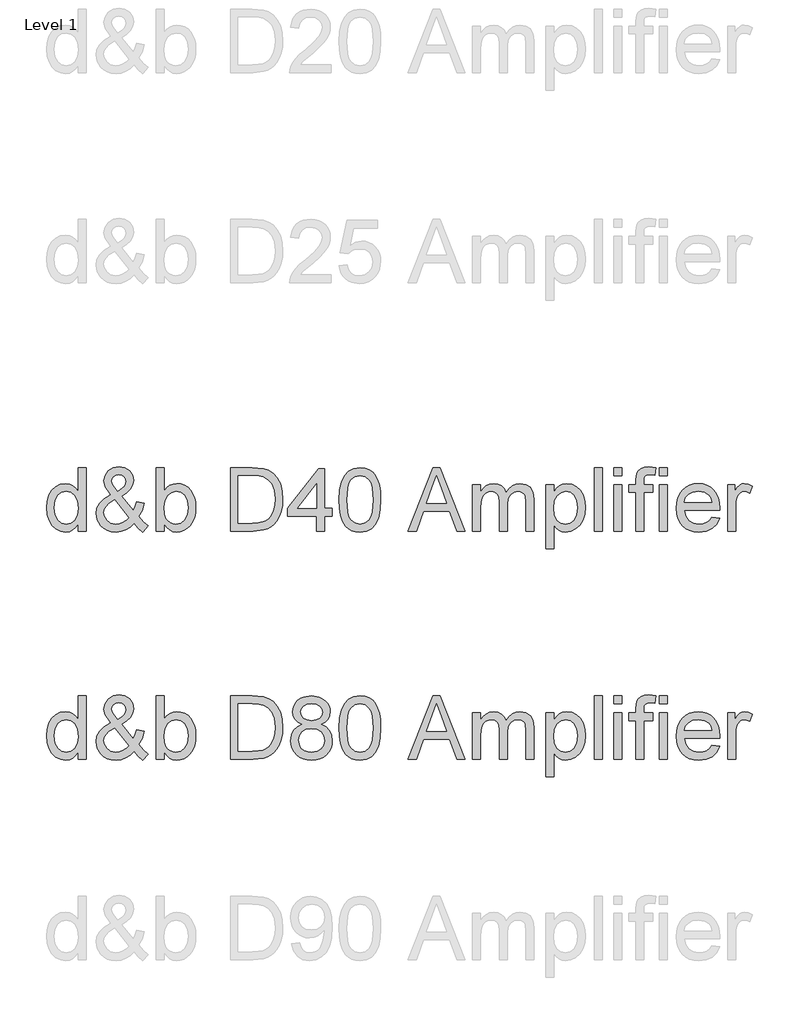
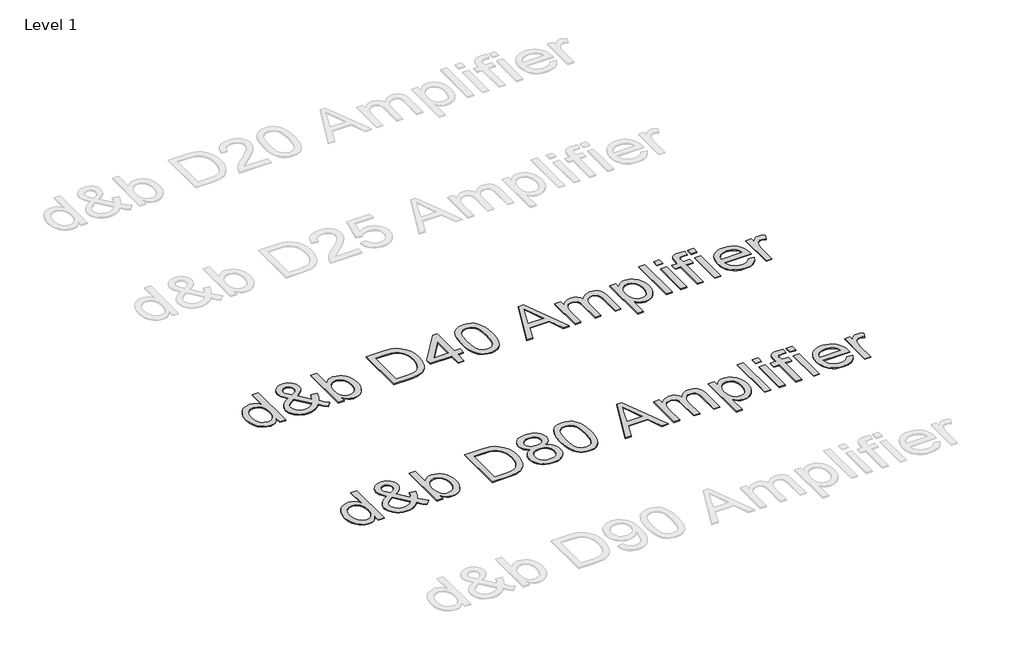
# One storey, part 6 of 14: 2 proxies.
"""IFC4 building model written with IfcOpenShell, lengths in millimetres."""

import ifcopenshell
import ifcopenshell.guid

model = None  # the IFC model being written
_history = None  # IfcOwnerHistory: only IFC2X3 demands one
_inside = {}  # id of a spatial element -> (the spatial element, [elements in it])
_under = {}  # id of a project, library or spatial element -> (it, [spatial elements below it])
_declared = {}  # id of a project -> (the project, [libraries it declares])
_typed = {}  # id of a type object -> (the type object, [elements of that type])
_made_of = {}  # id of a material, layer set ... -> (it, [elements and type objects made of it])


def new_model(schema):
    """Start an empty IFC model of exactly this schema.

    Asked for "IFC4X3", IfcOpenShell would pick the latest addendum, in which some entities
    have other attributes; the version numbers below select the first issue.
    IFC2X3 requires an IfcOwnerHistory on every rooted entity: one is made here for all.
    """
    global model, _history
    if schema == "IFC4X3":
        model = ifcopenshell.file(schema_version=(4, 3, 0, 0))
    else:
        model = ifcopenshell.file(schema=schema)
    _inside.clear()
    _under.clear()
    _declared.clear()
    _typed.clear()
    _made_of.clear()
    _history = None
    if model.schema == "IFC2X3":
        org = make("IfcOrganization", Name="unknown")
        user = make(
            "IfcPersonAndOrganization",
            ThePerson=make("IfcPerson", FamilyName="unknown"),
            TheOrganization=org,
        )
        app = make(
            "IfcApplication",
            ApplicationDeveloper=org,
            Version="unknown",
            ApplicationFullName="unknown",
            ApplicationIdentifier="unknown",
        )
        _history = make(
            "IfcOwnerHistory",
            OwningUser=user,
            OwningApplication=app,
            ChangeAction="ADDED",
            CreationDate=0,
        )
    return model


def make(cls, **values):
    """One entity of the class cls with the attributes given. An attribute that is None is left unset."""
    return model.create_entity(
        cls, **{name: value for name, value in values.items() if value is not None}
    )


def rooted(cls, **values):
    """An entity with a GlobalId (a new one), such as an element, a storey or a relation."""
    return make(cls, GlobalId=ifcopenshell.guid.new(), OwnerHistory=_history, **values)


def si_unit(unit_type, name, prefix=None):
    """IfcSIUnit, for example si_unit("LENGTHUNIT", "METRE", prefix="MILLI")."""
    return make("IfcSIUnit", UnitType=unit_type, Prefix=prefix, Name=name)


def assignment(units):
    """IfcUnitAssignment: the units of a project."""
    return None if units is None else make("IfcUnitAssignment", Units=units)


def point(xyz):
    """IfcCartesianPoint."""
    return None if xyz is None else make("IfcCartesianPoint", Coordinates=xyz)


def direction(xyz):
    """IfcDirection."""
    return None if xyz is None else make("IfcDirection", DirectionRatios=xyz)


def frame(location, z_axis=None, x_axis=None):
    """IfcAxis2Placement3D, a coordinate frame: its origin and axes. An axis left out is left unset."""
    return make(
        "IfcAxis2Placement3D",
        Location=point(location),
        Axis=direction(z_axis),
        RefDirection=direction(x_axis),
    )


def origin():
    """The frame at (0, 0, 0) with its axes left unset."""
    return frame((0.0, 0.0, 0.0))


def origin_with_axes():
    """The frame at (0, 0, 0) with the z axis (0, 0, 1) and the x axis (1, 0, 0) written out."""
    return frame((0.0, 0.0, 0.0), z_axis=(0.0, 0.0, 1.0), x_axis=(1.0, 0.0, 0.0))


def place(relative_to, where):
    """IfcLocalPlacement: puts the frame where relative to a parent placement (None: the world)."""
    return make(
        "IfcLocalPlacement", PlacementRelTo=relative_to, RelativePlacement=where
    )


def context(
    kind, dimensions, precision=None, world=None, true_north=None, identifier=None
):
    """IfcGeometricRepresentationContext, for example the 3D "Model" context."""
    return make(
        "IfcGeometricRepresentationContext",
        ContextIdentifier=identifier,
        ContextType=kind,
        CoordinateSpaceDimension=dimensions,
        Precision=precision,
        WorldCoordinateSystem=world,
        TrueNorth=true_north,
    )


def project(units=None, contexts=None):
    """IfcProject with its units and contexts."""
    return rooted(
        "IfcProject",
        Name="project",
        RepresentationContexts=contexts,
        UnitsInContext=assignment(units),
    )


def spatial(cls, under=None, at=None, **own):
    """A site, building, storey or space (cls), placed at a placement, below another one or the project."""
    s = rooted(cls, ObjectPlacement=at, **own)
    if under is not None:
        _under.setdefault(under.id(), (under, []))[1].append(s)
    return s


def polyline(points):
    """IfcPolyline through the points."""
    return make("IfcPolyline", Points=[point(p) for p in points])


def outline(outer, holes=None, kind="AREA"):
    """IfcArbitraryClosedProfileDef: a profile drawn as a closed curve; with holes, ...WithVoids."""
    if holes is None:
        return make("IfcArbitraryClosedProfileDef", ProfileType=kind, OuterCurve=outer)
    return make(
        "IfcArbitraryProfileDefWithVoids",
        ProfileType=kind,
        OuterCurve=outer,
        InnerCurves=holes,
    )


def extrude(swept, where, along, depth):
    """IfcExtrudedAreaSolid: the profile swept, set in the frame where, extruded along a direction by depth."""
    return make(
        "IfcExtrudedAreaSolid",
        SweptArea=swept,
        Position=where,
        ExtrudedDirection=direction(along),
        Depth=depth,
    )


def shape(context_of_items, identifier, shape_type, items):
    """IfcShapeRepresentation: the items that make up one representation, for example the "Body"."""
    return make(
        "IfcShapeRepresentation",
        ContextOfItems=context_of_items,
        RepresentationIdentifier=identifier,
        RepresentationType=shape_type,
        Items=items,
    )


def made_of(thing, what):
    """Note that an element or type object is made of a material, layer set ...; save() writes the relation."""
    if what is not None:
        _made_of.setdefault(what.id(), (what, []))[1].append(thing)
    return thing


def element(
    cls,
    number,
    at=None,
    inside=None,
    cuts=None,
    type_object=None,
    material=None,
    context=None,
    identifier="Body",
    shape_type=None,
    held_by="IfcProductDefinitionShape",
    body=None,
    shapes=None,
    **own,
):
    """One element of the class cls, such as IfcWall. Its Tag is "e" and its number.

    at: its placement. inside: the storey or other place that contains it. cuts: it is an
    opening in that element (IfcRelVoidsElement). A single representation is given by context,
    identifier, shape_type and body (its items); several are given by shapes. held_by: the class
    of the entity that holds the representations. save() writes the other relations.
    """
    e = rooted(cls, Tag="e%d" % number, ObjectPlacement=at, **own)
    if body is not None:
        shapes = [shape(context, identifier, shape_type, body)]
    if shapes is not None:
        e.Representation = make(held_by, Representations=shapes)
    if inside is not None:
        _inside.setdefault(inside.id(), (inside, []))[1].append(e)
    if cuts is not None:
        rooted(
            "IfcRelVoidsElement", RelatingBuildingElement=cuts, RelatedOpeningElement=e
        )
    if type_object is not None:
        _typed.setdefault(type_object.id(), (type_object, []))[1].append(e)
    return made_of(e, material)


def aggregate(whole, parts):
    """IfcRelAggregates: a whole, such as a stair, and the parts it consists of."""
    return rooted("IfcRelAggregates", RelatingObject=whole, RelatedObjects=parts)


def save(model, path):
    """Write the relations noted so far, then the file.

    IfcRelAggregates (storeys below a building ...), IfcRelContainedInSpatialStructure (elements
    in a storey), IfcRelDefinesByType, IfcRelAssociatesMaterial and IfcRelDeclares: one each for
    every whole, place, type object, material and project.
    """
    for whole, parts in _under.values():
        aggregate(whole, parts)
    for where, things in _inside.values():
        rooted(
            "IfcRelContainedInSpatialStructure",
            RelatedElements=things,
            RelatingStructure=where,
        )
    for kind, things in _typed.values():
        rooted("IfcRelDefinesByType", RelatedObjects=things, RelatingType=kind)
    for what, things in _made_of.values():
        rooted("IfcRelAssociatesMaterial", RelatedObjects=things, RelatingMaterial=what)
    for by, libraries in _declared.values():
        rooted("IfcRelDeclares", RelatingContext=by, RelatedDefinitions=libraries)
    model.write(path)


model = new_model("IFC4")

# Units and contexts
model_context = context("Model", 3, world=origin())
ifc_project = project(units=[si_unit("LENGTHUNIT", "METRE", prefix="MILLI")], contexts=[model_context])

# Site, building, storey
site = spatial("IfcSite", under=ifc_project)
building = spatial("IfcBuilding", under=site)
storey = spatial("IfcBuildingStorey", under=building, Name="Level 1", Elevation=0.0)

# Proxies
placement = place(None, origin())
element("IfcBuildingElementProxy", 1, Name="300mm Arial", ObjectType="300mm Arial", at=placement, inside=storey, context=model_context, shape_type="SweptSolid", body=[
    extrude(outline(polyline([(-19191.0990778, 7187.2877829), (-19191.0990778, 7222.8251837), (-19202.3700624, 7205.2174317), (-19216.0230829, 7192.640466), (-19232.0581394, 7185.0942866), (-19250.4752318, 7182.5788934), (-19274.8290199, 7186.2209252), (-19297.1226688, 7197.1470204), (-19315.9950151, 7214.593824), (-19330.0848956, 7237.7979809), (-19338.8588811, 7265.8213919), (-19341.783543, 7297.7259579), (-19339.0888074, 7329.2350508), (-19331.0046005, 7357.6907231), (-19317.5401195, 7381.4742941), (-19298.7045614, 7398.967083), (-19275.9234688, 7409.7276313), (-19250.6223846, 7413.3144808), (-19232.1914966, 7410.7485039), (-19215.8943242, 7403.0505731), (-19202.0803553, 7391.2507581), (-19191.0990778, 7376.3791285), (-19191.0990778, 7488.6567134), (-19153.4279615, 7488.6567134), (-19153.4279615, 7187.2877829), (-19191.0990778, 7187.2877829)]), holes=[polyline([(-19304.1124267, 7297.8731107), (-19299.8633896, 7263.7980409), (-19287.1162785, 7239.5638145), (-19268.5934201, 7225.0784609), (-19247.017141, 7220.2500097), (-19225.4500591, 7224.8577317), (-19207.3962502, 7238.6808977), (-19195.1733709, 7261.977025), (-19191.0990778, 7295.0036311), (-19195.2469473, 7331.111249), (-19207.6905558, 7356.1456187), (-19226.2042172, 7370.768928), (-19248.5622454, 7375.6433645), (-19270.3592536, 7370.9620661), (-19288.2199245, 7356.9181709), (-19300.1393011, 7332.7943091), (-19304.1124267, 7297.8731107)])]), origin_with_axes(), (0.0, 0.0, 1.0), 5.0),
    extrude(outline(polyline([(-18924.0903257, 7224.5174409), (-18943.2385835, 7206.1693264), (-18964.0423104, 7193.0635303), (-18986.5382944, 7185.2000526), (-19010.7633237, 7182.5788934), (-19032.744273, 7184.5194709), (-19052.3339892, 7190.3412035), (-19069.5324725, 7200.0440911), (-19084.3397228, 7213.6281338), (-19100.8392303, 7240.4283372), (-19106.3390661, 7270.2083847), (-19101.9152851, 7296.6039178), (-19088.6439421, 7320.3139124), (-19066.5802195, 7341.3199743), (-19035.7792994, 7359.6037095), (-19062.0828621, 7397.7162842), (-19068.6679498, 7425.9696214), (-19063.4808136, 7451.4086614), (-19047.9194053, 7473.279246), (-19024.5037163, 7488.3440137), (-18995.7537383, 7493.3656029), (-18968.401712, 7488.5647429), (-18946.5311274, 7474.1621628), (-18932.1837296, 7453.0273422), (-18927.4012636, 7428.0297606), (-18930.9421278, 7407.0420928), (-18941.5647204, 7387.6363175), (-18959.2690415, 7369.8124349), (-18984.0550909, 7353.5704448), (-18929.5349792, 7285.6594285), (-18920.2459588, 7305.0652037), (-18913.274595, 7327.3772467), (-18875.6034787, 7319.2102664), (-18887.1917616, 7284.3166592), (-18902.2381352, 7257.185362), (-18880.827403, 7232.2061746), (-18856.7679206, 7211.5679946), (-18885.0212578, 7182.5788934), (-18904.243092, 7200.1636528), (-18924.0903257, 7224.5174409)]), holes=[polyline([(-18949.3270305, 7251.6671321), (-19016.5758593, 7335.6178034), (-19042.2632196, 7319.2286605), (-19057.9625837, 7304.0535282), (-19065.9916083, 7289.5589776), (-19068.6679498, 7275.2115798), (-19065.0075239, 7257.4428794), (-19054.0262464, 7239.0119915), (-19036.3311224, 7224.9405052), (-19012.5291573, 7220.2500097), (-18995.4870239, 7222.4389076), (-18977.9114616, 7229.0056012), (-18961.8442154, 7239.0487797), (-18949.3270305, 7251.6671321)]), polyline([(-19003.1113782, 7377.3356217), (-18983.4112974, 7389.8344124), (-18972.1357142, 7400.6961284), (-18966.8382135, 7411.2635387), (-18965.0723799, 7422.8794127), (-18967.3992336, 7436.040391), (-18974.3797944, 7446.534225), (-18984.8552342, 7453.4044212), (-18997.6667247, 7455.6944866), (-19010.7541267, 7453.4228153), (-19021.4686898, 7446.6078013), (-19028.6147976, 7436.5186376), (-19030.9968335, 7424.424517), (-19027.7594719, 7410.6289422), (-19017.9738108, 7395.288263), (-19003.1113782, 7377.3356217)])]), origin_with_axes(), (0.0, 0.0, 1.0), 5.0),
    extrude(outline(polyline([(-18781.4256879, 7187.2877829), (-18819.0968043, 7187.2877829), (-18819.0968043, 7488.6567134), (-18781.4256879, 7488.6567134), (-18781.4256879, 7376.8941633), (-18769.0372618, 7392.8280522), (-18755.0485489, 7404.2094014), (-18739.4595493, 7411.0382109), (-18722.2702631, 7413.3144808), (-18702.8644879, 7411.2635387), (-18684.5255704, 7405.1107123), (-18668.3019744, 7395.2422778), (-18655.2421636, 7382.0445112), (-18645.0058471, 7365.6461713), (-18637.252734, 7346.1760167), (-18632.3691005, 7324.4433878), (-18630.7412227, 7301.2576251), (-18632.4265821, 7274.503407), (-18637.4826603, 7250.9681563), (-18645.9094572, 7230.6518731), (-18657.706973, 7213.5545574), (-18671.8681305, 7200.0027044), (-18687.3858529, 7190.3228094), (-18704.2601402, 7184.5148724), (-18722.4909923, 7182.5788934), (-18740.2458971, 7185.0758925), (-18755.986648, 7192.5668896), (-18769.7132449, 7205.0518848), (-18781.4256879, 7222.5308781), (-18781.4256879, 7187.2877829)]), holes=[polyline([(-18781.4256879, 7299.4917915), (-18778.850514, 7268.0746691), (-18771.1249921, 7246.8110898), (-18761.9969201, 7235.1906172), (-18751.388123, 7226.8902797), (-18739.298601, 7221.9100772), (-18725.7283539, 7220.2500097), (-18703.986528, 7225.1428403), (-18685.4084872, 7239.8213319), (-18672.6613761, 7264.193514), (-18668.412339, 7298.1674163), (-18672.4866321, 7332.6379592), (-18684.7095114, 7356.7342299), (-18702.708138, 7370.9160808), (-18724.1096731, 7375.6433645), (-18745.851499, 7370.7505339), (-18764.4295398, 7356.0720423), (-18777.1766509, 7332.1413186), (-18781.4256879, 7299.4917915)])]), origin_with_axes(), (0.0, 0.0, 1.0), 5.0),
    extrude(outline(polyline([(-18465.9300889, 7187.2877829), (-18465.9300889, 7488.6567134), (-18361.966637, 7488.6567134), (-18308.1822893, 7484.3157059), (-18284.1595951, 7475.9463905), (-18263.8892971, 7462.7578209), (-18243.0487821, 7439.8019844), (-18228.2047436, 7411.2543416), (-18219.3203934, 7377.6667155), (-18216.3589434, 7339.590929), (-18218.3639002, 7307.2449045), (-18224.3787708, 7278.7800352), (-18233.5390325, 7254.5458087), (-18244.9801626, 7234.8917131), (-18258.150338, 7219.37629), (-18272.4977358, 7207.5580809), (-18288.9696522, 7198.7932923), (-18308.5133831, 7192.4381309), (-18356.9634419, 7187.2877829), (-18465.9300889, 7187.2877829)]), holes=[polyline([(-18428.2589726, 7224.9588993), (-18361.598755, 7224.9588993), (-18334.0259995, 7226.3200626), (-18313.1119081, 7230.4035528), (-18297.3297705, 7236.9702464), (-18285.1528765, 7245.7810202), (-18272.0654745, 7262.0873896), (-18262.2338282, 7283.1946191), (-18256.0810018, 7309.1946791), (-18254.0300597, 7340.1795401), (-18258.0491705, 7381.2351708), (-18270.1065028, 7411.5486472), (-18287.9211885, 7432.3707681), (-18309.2123589, 7444.9523324), (-18330.8806085, 7449.4772809), (-18362.6288246, 7450.9855971), (-18428.2589726, 7450.9855971), (-18428.2589726, 7224.9588993)])]), origin_with_axes(), (0.0, 0.0, 1.0), 5.0),
    extrude(outline(polyline([(-18123.7998334, 7353.2761392), (-18143.9689638, 7363.208953), (-18158.1232235, 7376.6734341), (-18166.4833419, 7393.3936707), (-18169.270048, 7413.0937516), (-18167.7525347, 7428.4574234), (-18163.1999951, 7442.5427053), (-18155.6124289, 7455.3495973), (-18144.9898363, 7466.8780993), (-18131.8426535, 7476.406243), (-18116.6813168, 7483.2120599), (-18080.3161815, 7488.6567134), (-18043.7303171, 7483.0833012), (-18028.4034335, 7476.1165359), (-18015.0539156, 7466.3630645), (-18004.2381849, 7454.6092347), (-17996.512663, 7441.6413944), (-17991.8773499, 7427.4595435), (-17990.3322455, 7412.063682), (-17993.0821634, 7392.9981976), (-18001.3319172, 7376.5630695), (-18015.1734772, 7363.1813619), (-18034.6988141, 7353.2761392), (-18011.5130514, 7341.3291714), (-17994.6364649, 7323.735215), (-17984.344966, 7301.3403985), (-17980.9144664, 7274.9908506), (-17982.6159207, 7256.2012777), (-17987.7202834, 7238.9752033), (-17996.2275545, 7223.3126273), (-18008.1377341, 7209.2135499), (-18022.8254227, 7197.5608877), (-18039.6652211, 7189.2375575), (-18058.6571291, 7184.2435594), (-18079.8011467, 7182.5788934), (-18100.9451644, 7184.2504572), (-18119.9370724, 7189.2651487), (-18136.7768707, 7197.6229678), (-18151.4645594, 7209.3239145), (-18163.374739, 7223.5218602), (-18171.8820101, 7239.3706764), (-18176.9863728, 7256.8703631), (-18178.687827, 7276.0209202), (-18175.1193717, 7303.3913406), (-18164.4140056, 7325.9057187), (-18147.1235519, 7342.7915023), (-18123.7998334, 7353.2761392)]), holes=[polyline([(-18141.0167107, 7277.3452954), (-18134.7259286, 7248.9815935), (-18126.0163224, 7236.8138966), (-18112.4690679, 7227.7548024), (-18096.2454719, 7222.1262079), (-18079.5068411, 7220.2500097), (-18053.8654661, 7224.1955441), (-18034.6252377, 7236.0321473), (-18022.5954965, 7253.9571975), (-18018.5855827, 7276.168073), (-18022.7242552, 7298.7560275), (-18035.1402725, 7317.0765508), (-18054.8219593, 7329.2166567), (-18080.7576399, 7333.2633586), (-18106.0403301, 7329.271839), (-18125.0874204, 7317.29728), (-18137.0343881, 7299.3262446), (-18141.0167107, 7277.3452954)]), polyline([(-18131.5989317, 7411.9901056), (-18128.2604026, 7395.5457804), (-18118.2448152, 7382.4123932), (-18101.8464753, 7373.8039545), (-18079.3596883, 7370.9344749), (-18057.3971332, 7373.7855604), (-18041.2471136, 7382.3388168), (-18031.3142998, 7395.0307456), (-18028.0033618, 7410.2978484), (-18031.4246644, 7426.1443654), (-18041.688572, 7439.2501614), (-18058.0593208, 7448.0517382), (-18079.8011467, 7450.9855971), (-18101.6809284, 7448.1161175), (-18118.024086, 7439.5076788), (-18128.2052203, 7426.8893264), (-18131.5989317, 7411.9901056)])]), origin_with_axes(), (0.0, 0.0, 1.0), 5.0),
    extrude(outline(polyline([(-17947.9522397, 7335.544227), (-17945.1839277, 7383.7827536), (-17936.8789916, 7422.2540133), (-17923.120205, 7451.5466171), (-17903.9903412, 7472.2491764), (-17879.3514446, 7484.5548292), (-17849.0655594, 7488.6567134), (-17825.8522055, 7486.2286922), (-17805.0668727, 7478.9446287), (-17787.6844485, 7467.0896314), (-17774.6798199, 7450.9488089), (-17764.8573707, 7430.6601169), (-17757.0214842, 7406.3615111), (-17751.8895303, 7375.5054087), (-17750.1788791, 7335.544227), (-17752.9195999, 7287.5816119), (-17761.1417625, 7249.2023227), (-17774.8177757, 7219.8821277), (-17793.9200483, 7199.096795), (-17818.6141272, 7186.7083688), (-17849.0655594, 7182.5788934), (-17869.8141039, 7184.3723181), (-17888.2082037, 7189.7525923), (-17904.2478586, 7198.7197159), (-17917.9330689, 7211.273689), (-17931.0664561, 7233.9674096), (-17940.447447, 7262.2437395), (-17946.0760415, 7296.1026786), (-17947.9522397, 7335.544227)]), holes=[polyline([(-17910.2811234, 7335.6178034), (-17905.8665394, 7276.361211), (-17900.3483095, 7256.0932124), (-17892.6227876, 7242.065412), (-17872.9043127, 7225.7038603), (-17849.0655594, 7220.2500097), (-17825.2268061, 7225.7222544), (-17805.5083311, 7242.1389884), (-17797.7828092, 7256.1897814), (-17792.2645793, 7276.4531815), (-17787.8499954, 7335.6178034), (-17792.1174265, 7393.5408235), (-17797.4517154, 7413.7421436), (-17804.9197199, 7428.103337), (-17824.6014067, 7445.2650321), (-17849.5070178, 7450.9855971), (-17873.0882537, 7445.9456138), (-17892.0341764, 7430.8256638), (-17900.0172157, 7415.190679), (-17905.7193866, 7394.1110406), (-17910.2811234, 7335.6178034)])]), origin_with_axes(), (0.0, 0.0, 1.0), 5.0),
    extrude(outline(polyline([(-17620.3901112, 7187.2877829), (-17500.0926987, 7488.6567134), (-17468.0133888, 7488.6567134), (-17347.7895527, 7187.2877829), (-17387.5943846, 7187.2877829), (-17422.0281394, 7281.4655737), (-17546.2251009, 7281.4655737), (-17580.6588557, 7187.2877829), (-17620.3901112, 7187.2877829)]), holes=[polyline([(-17532.3927379, 7319.13669), (-17435.786926, 7319.13669), (-17463.0101936, 7393.2281238), (-17484.1266202, 7450.9855971), (-17502.8886019, 7399.702847), (-17532.3927379, 7319.13669)])]), origin_with_axes(), (0.0, 0.0, 1.0), 5.0),
    extrude(outline(polyline([(-17312.252152, 7187.2877829), (-17312.252152, 7408.6055912), (-17274.5810357, 7408.6055912), (-17274.5810357, 7372.1852737), (-17263.2502702, 7388.9147075), (-17248.6821432, 7402.0205035), (-17231.3732954, 7410.4909865), (-17211.8203673, 7413.3144808), (-17190.8694877, 7410.4358042), (-17174.0756746, 7401.7997743), (-17161.5308986, 7387.9766084), (-17153.3271301, 7369.5365234), (-17139.5959346, 7388.6893797), (-17123.9333587, 7402.3699914), (-17106.3394023, 7410.5783584), (-17086.8140654, 7413.3144808), (-17058.4963488, 7408.7619411), (-17037.5546662, 7395.104322), (-17024.614417, 7371.9737416), (-17020.3010006, 7339.0023178), (-17020.3010006, 7187.2877829), (-17057.9721169, 7187.2877829), (-17057.9721169, 7322.81551), (-17061.4669959, 7354.2694206), (-17066.3782205, 7362.9422386), (-17074.1221365, 7369.7572526), (-17084.0825415, 7374.1718365), (-17095.6432332, 7375.6433645), (-17116.0514869, 7371.872574), (-17132.6889502, 7360.5602027), (-17143.7530012, 7340.9336982), (-17147.4410182, 7312.2205085), (-17147.4410182, 7187.2877829), (-17185.1121345, 7187.2877829), (-17185.1121345, 7327.0093647), (-17187.2918353, 7348.3097322), (-17193.8309378, 7363.5032586), (-17205.3364472, 7372.608338), (-17222.4153688, 7375.6433645), (-17236.9283135, 7373.6200135), (-17250.300824, 7367.5499606), (-17261.3372839, 7357.5803585), (-17268.8420766, 7343.8583601), (-17273.1462959, 7324.8204668), (-17274.5810357, 7298.9031803), (-17274.5810357, 7187.2877829), (-17312.252152, 7187.2877829)])), origin_with_axes(), (0.0, 0.0, 1.0), 5.0),
    extrude(outline(polyline([(-16963.7943262, 7102.5277713), (-16963.7943262, 7408.6055912), (-16926.1232099, 7408.6055912), (-16926.1232099, 7371.6702389), (-16913.8359512, 7389.8895947), (-16900.0771646, 7402.9034203), (-16884.0375096, 7410.7117157), (-16864.9076459, 7413.3144808), (-16839.4318177, 7409.672449), (-16817.1565629, 7398.7463538), (-16799.0199805, 7381.1983826), (-16785.9601697, 7357.6907231), (-16778.0691009, 7329.9340266), (-16775.4387446, 7299.6389443), (-16778.4093918, 7267.4216785), (-16787.3213331, 7238.6073213), (-16801.8894601, 7214.6582034), (-16821.8286642, 7197.0366558), (-16845.0512152, 7186.193334), (-16869.4693826, 7182.5788934), (-16886.7874275, 7184.9977175), (-16902.2476684, 7192.2541899), (-16915.4822232, 7203.2078763), (-16926.1232099, 7216.7183426), (-16926.1232099, 7102.5277713), (-16963.7943262, 7102.5277713)]), holes=[polyline([(-16926.1232099, 7296.1808535), (-16922.0489168, 7262.4092864), (-16909.8260375, 7238.7912623), (-16891.7906227, 7224.8853229), (-16870.278723, 7220.2500097), (-16848.4173354, 7225.0508698), (-16829.9220681, 7239.4534499), (-16817.3129127, 7263.9359966), (-16813.109861, 7298.9767567), (-16817.2117452, 7332.5643828), (-16829.5173979, 7356.5135007), (-16847.5252216, 7370.8608985), (-16868.7336186, 7375.6433645), (-16890.0247891, 7370.5573959), (-16908.7223915, 7355.2994901), (-16921.7730053, 7330.3478938), (-16926.1232099, 7296.1808535)])]), origin_with_axes(), (0.0, 0.0, 1.0), 5.0),
    extrude(outline(polyline([(-16733.0587388, 7187.2877829), (-16733.0587388, 7488.6567134), (-16695.3876225, 7488.6567134), (-16695.3876225, 7187.2877829), (-16733.0587388, 7187.2877829)])), origin_with_axes(), (0.0, 0.0, 1.0), 5.0),
    extrude(outline(polyline([(-16638.880948, 7187.2877829), (-16638.880948, 7408.6055912), (-16601.2098317, 7408.6055912), (-16601.2098317, 7187.2877829), (-16638.880948, 7187.2877829)])), origin_with_axes(), (0.0, 0.0, 1.0), 5.0),
    extrude(outline(polyline([(-16638.880948, 7450.9855971), (-16638.880948, 7488.6567134), (-16601.2098317, 7488.6567134), (-16601.2098317, 7450.9855971), (-16638.880948, 7450.9855971)])), origin_with_axes(), (0.0, 0.0, 1.0), 5.0),
    extrude(outline(polyline([(-16535.2853782, 7187.2877829), (-16535.2853782, 7370.9344749), (-16568.247605, 7370.9344749), (-16568.247605, 7408.6055912), (-16535.2853782, 7408.6055912), (-16535.2853782, 7430.8992402), (-16531.3122526, 7462.3163625), (-16523.7338835, 7474.8427445), (-16512.0352361, 7484.7571642), (-16495.6644873, 7491.2134933), (-16474.0698142, 7493.3656029), (-16439.7096358, 7489.2453246), (-16445.2278658, 7453.9286531), (-16466.9329035, 7455.6944866), (-16481.2527102, 7454.1309882), (-16490.6612922, 7449.4404927), (-16495.8760195, 7440.4825661), (-16497.6142619, 7426.1167742), (-16497.6142619, 7408.6055912), (-16455.234256, 7408.6055912), (-16455.234256, 7370.9344749), (-16497.6142619, 7370.9344749), (-16497.6142619, 7187.2877829), (-16535.2853782, 7187.2877829)])), origin_with_axes(), (0.0, 0.0, 1.0), 5.0),
    extrude(outline(polyline([(-16422.2720293, 7187.2877829), (-16422.2720293, 7408.6055912), (-16384.600913, 7408.6055912), (-16384.600913, 7187.2877829), (-16422.2720293, 7187.2877829)])), origin_with_axes(), (0.0, 0.0, 1.0), 5.0),
    extrude(outline(polyline([(-16422.2720293, 7450.9855971), (-16422.2720293, 7488.6567134), (-16384.600913, 7488.6567134), (-16384.600913, 7450.9855971), (-16422.2720293, 7450.9855971)])), origin_with_axes(), (0.0, 0.0, 1.0), 5.0),
    extrude(outline(polyline([(-16173.1423421, 7253.2122365), (-16136.2069898, 7248.5033469), (-16149.515121, 7220.673074), (-16170.7511092, 7199.8693472), (-16199.4367077, 7186.9015069), (-16235.0936701, 7182.5788934), (-16258.4679724, 7184.4435953), (-16279.2946919, 7190.0377009), (-16297.5738285, 7199.3612102), (-16313.3053823, 7212.4141232), (-16325.9559244, 7228.8331565), (-16334.9920259, 7248.2550266), (-16340.4136868, 7270.6797335), (-16342.2209071, 7296.1072771), (-16340.3952927, 7322.3970442), (-16334.9184495, 7345.5690114), (-16325.7903775, 7365.6231786), (-16313.0110767, 7382.559546), (-16297.3209096, 7396.01483), (-16279.4602387, 7405.6257471), (-16259.4290641, 7411.3922974), (-16237.2273857, 7413.3144808), (-16215.7407779, 7411.3968959), (-16196.3097108, 7405.6441412), (-16178.9341843, 7396.0562167), (-16163.6141985, 7382.6331224), (-16151.1085099, 7365.7335432), (-16142.1758752, 7345.7161642), (-16136.8162944, 7322.5809852), (-16135.0297674, 7296.3280063), (-16135.2504966, 7286.1744633), (-16304.5497908, 7286.1744633), (-16298.0290825, 7257.9763083), (-16282.8815413, 7237.2461579), (-16261.0201537, 7224.4990468), (-16234.3579061, 7220.2500097), (-16214.3083374, 7222.2181784), (-16197.4225538, 7228.1226844), (-16183.7005554, 7238.3314098), (-16173.1423421, 7253.2122365)]), holes=[polyline([(-16304.5497908, 7323.8455796), (-16172.7008837, 7323.8455796), (-16177.7960494, 7343.7479955), (-16187.7840455, 7357.9850287), (-16209.7466007, 7371.2287805), (-16237.3745385, 7375.6433645), (-16262.7675932, 7372.1208944), (-16283.7644581, 7361.5534841), (-16298.3601763, 7345.0815677), (-16304.5497908, 7323.8455796)])]), origin_with_axes(), (0.0, 0.0, 1.0), 5.0),
    extrude(outline(polyline([(-16097.3586511, 7187.2877829), (-16097.3586511, 7408.6055912), (-16064.3964244, 7408.6055912), (-16064.3964244, 7375.8640937), (-16052.2195303, 7394.8468046), (-16040.9991295, 7406.0304173), (-16029.7419404, 7411.4934649), (-16017.4546818, 7413.3144808), (-15998.6927, 7410.408213), (-15979.6364127, 7401.6894097), (-15992.2179769, 7367.9178426), (-16005.4617287, 7373.711984), (-16018.7054806, 7375.6433645), (-16029.9534726, 7373.7855604), (-16040.0058481, 7368.2121482), (-16048.1268431, 7359.3461921), (-16053.5806937, 7347.6107564), (-16058.1608245, 7326.5679063), (-16059.6875348, 7303.6120698), (-16059.6875348, 7187.2877829), (-16097.3586511, 7187.2877829)])), origin_with_axes(), (0.0, 0.0, 1.0), 5.0),
])
element("IfcBuildingElementProxy", 2, Name="300mm Arial", ObjectType="300mm Arial", at=placement, inside=storey, context=model_context, shape_type="SweptSolid", body=[
    extrude(outline(polyline([(-19191.0990778, 8273.1412103), (-19191.0990778, 8308.678611), (-19202.3700624, 8291.070859), (-19216.0230829, 8278.4938933), (-19232.0581394, 8270.9477139), (-19250.4752318, 8268.4323207), (-19274.8290199, 8272.0743525), (-19297.1226688, 8283.0004477), (-19315.9950151, 8300.4472513), (-19330.0848956, 8323.6514082), (-19338.8588811, 8351.6748192), (-19341.783543, 8383.5793852), (-19339.0888074, 8415.0884781), (-19331.0046005, 8443.5441504), (-19317.5401195, 8467.3277214), (-19298.7045614, 8484.8205103), (-19275.9234688, 8495.5810586), (-19250.6223846, 8499.1679081), (-19232.1914966, 8496.6019312), (-19215.8943242, 8488.9040004), (-19202.0803553, 8477.1041854), (-19191.0990778, 8462.2325558), (-19191.0990778, 8574.5101407), (-19153.4279615, 8574.5101407), (-19153.4279615, 8273.1412103), (-19191.0990778, 8273.1412103)]), holes=[polyline([(-19304.1124267, 8383.726538), (-19299.8633896, 8349.6514682), (-19287.1162785, 8325.4172418), (-19268.5934201, 8310.9318882), (-19247.017141, 8306.103437), (-19225.4500591, 8310.711159), (-19207.3962502, 8324.534325), (-19195.1733709, 8347.8304523), (-19191.0990778, 8380.8570584), (-19195.2469473, 8416.9646763), (-19207.6905558, 8441.999046), (-19226.2042172, 8456.6223554), (-19248.5622454, 8461.4967918), (-19270.3592536, 8456.8154934), (-19288.2199245, 8442.7715982), (-19300.1393011, 8418.6477364), (-19304.1124267, 8383.726538)])]), origin_with_axes(), (0.0, 0.0, 1.0), 5.0),
    extrude(outline(polyline([(-18924.0903257, 8310.3708682), (-18943.2385835, 8292.0227537), (-18964.0423104, 8278.9169576), (-18986.5382944, 8271.0534799), (-19010.7633237, 8268.4323207), (-19032.744273, 8270.3728982), (-19052.3339892, 8276.1946308), (-19069.5324725, 8285.8975184), (-19084.3397228, 8299.4815611), (-19100.8392303, 8326.2817645), (-19106.3390661, 8356.061812), (-19101.9152851, 8382.4573451), (-19088.6439421, 8406.1673397), (-19066.5802195, 8427.1734016), (-19035.7792994, 8445.4571368), (-19062.0828621, 8483.5697115), (-19068.6679498, 8511.8230487), (-19063.4808136, 8537.2620887), (-19047.9194053, 8559.1326733), (-19024.5037163, 8574.197441), (-18995.7537383, 8579.2190302), (-18968.401712, 8574.4181702), (-18946.5311274, 8560.0155901), (-18932.1837296, 8538.8807695), (-18927.4012636, 8513.8831879), (-18930.9421278, 8492.8955201), (-18941.5647204, 8473.4897448), (-18959.2690415, 8455.6658622), (-18984.0550909, 8439.4238721), (-18929.5349792, 8371.5128558), (-18920.2459588, 8390.918631), (-18913.274595, 8413.230674), (-18875.6034787, 8405.0636937), (-18887.1917616, 8370.1700865), (-18902.2381352, 8343.0387893), (-18880.827403, 8318.0596019), (-18856.7679206, 8297.4214219), (-18885.0212578, 8268.4323207), (-18904.243092, 8286.0170801), (-18924.0903257, 8310.3708682)]), holes=[polyline([(-18949.3270305, 8337.5205594), (-19016.5758593, 8421.4712307), (-19042.2632196, 8405.0820878), (-19057.9625837, 8389.9069555), (-19065.9916083, 8375.4124049), (-19068.6679498, 8361.0650071), (-19065.0075239, 8343.2963067), (-19054.0262464, 8324.8654188), (-19036.3311224, 8310.7939325), (-19012.5291573, 8306.103437), (-18995.4870239, 8308.2923349), (-18977.9114616, 8314.8590285), (-18961.8442154, 8324.902207), (-18949.3270305, 8337.5205594)]), polyline([(-19003.1113782, 8463.189049), (-18983.4112974, 8475.6878398), (-18972.1357142, 8486.5495557), (-18966.8382135, 8497.116966), (-18965.0723799, 8508.73284), (-18967.3992336, 8521.8938183), (-18974.3797944, 8532.3876523), (-18984.8552342, 8539.2578485), (-18997.6667247, 8541.5479139), (-19010.7541267, 8539.2762426), (-19021.4686898, 8532.4612287), (-19028.6147976, 8522.3720649), (-19030.9968335, 8510.2779443), (-19027.7594719, 8496.4823695), (-19017.9738108, 8481.1416903), (-19003.1113782, 8463.189049)])]), origin_with_axes(), (0.0, 0.0, 1.0), 5.0),
    extrude(outline(polyline([(-18781.4256879, 8273.1412103), (-18819.0968043, 8273.1412103), (-18819.0968043, 8574.5101407), (-18781.4256879, 8574.5101407), (-18781.4256879, 8462.7475906), (-18769.0372618, 8478.6814795), (-18755.0485489, 8490.0628287), (-18739.4595493, 8496.8916382), (-18722.2702631, 8499.1679081), (-18702.8644879, 8497.116966), (-18684.5255704, 8490.9641396), (-18668.3019744, 8481.0957051), (-18655.2421636, 8467.8979385), (-18645.0058471, 8451.4995986), (-18637.252734, 8432.029444), (-18632.3691005, 8410.2968151), (-18630.7412227, 8387.1110524), (-18632.4265821, 8360.3568343), (-18637.4826603, 8336.8215836), (-18645.9094572, 8316.5053004), (-18657.706973, 8299.4079847), (-18671.8681305, 8285.8561317), (-18687.3858529, 8276.1762367), (-18704.2601402, 8270.3682997), (-18722.4909923, 8268.4323207), (-18740.2458971, 8270.9293198), (-18755.986648, 8278.4203169), (-18769.7132449, 8290.9053121), (-18781.4256879, 8308.3843054), (-18781.4256879, 8273.1412103)]), holes=[polyline([(-18781.4256879, 8385.3452188), (-18778.850514, 8353.9280964), (-18771.1249921, 8332.6645171), (-18761.9969201, 8321.0440446), (-18751.388123, 8312.743707), (-18739.298601, 8307.7635045), (-18725.7283539, 8306.103437), (-18703.986528, 8310.9962676), (-18685.4084872, 8325.6747592), (-18672.6613761, 8350.0469413), (-18668.412339, 8384.0208436), (-18672.4866321, 8418.4913866), (-18684.7095114, 8442.5876572), (-18702.708138, 8456.7695081), (-18724.1096731, 8461.4967918), (-18745.851499, 8456.6039613), (-18764.4295398, 8441.9254696), (-18777.1766509, 8417.9947459), (-18781.4256879, 8385.3452188)])]), origin_with_axes(), (0.0, 0.0, 1.0), 5.0),
    extrude(outline(polyline([(-18465.9300889, 8273.1412103), (-18465.9300889, 8574.5101407), (-18361.966637, 8574.5101407), (-18308.1822893, 8570.1691332), (-18284.1595951, 8561.7998178), (-18263.8892971, 8548.6112482), (-18243.0487821, 8525.6554117), (-18228.2047436, 8497.1077689), (-18219.3203934, 8463.5201428), (-18216.3589434, 8425.4443563), (-18218.3639002, 8393.0983318), (-18224.3787708, 8364.6334625), (-18233.5390325, 8340.399236), (-18244.9801626, 8320.7451404), (-18258.150338, 8305.2297173), (-18272.4977358, 8293.4115082), (-18288.9696522, 8284.6467197), (-18308.5133831, 8278.2915582), (-18356.9634419, 8273.1412103), (-18465.9300889, 8273.1412103)]), holes=[polyline([(-18428.2589726, 8310.8123266), (-18361.598755, 8310.8123266), (-18334.0259995, 8312.1734899), (-18313.1119081, 8316.2569801), (-18297.3297705, 8322.8236737), (-18285.1528765, 8331.6344475), (-18272.0654745, 8347.9408169), (-18262.2338282, 8369.0480464), (-18256.0810018, 8395.0481064), (-18254.0300597, 8426.0329675), (-18258.0491705, 8467.0885981), (-18270.1065028, 8497.4020745), (-18287.9211885, 8518.2241954), (-18309.2123589, 8530.8057597), (-18330.8806085, 8535.3307082), (-18362.6288246, 8536.8390244), (-18428.2589726, 8536.8390244), (-18428.2589726, 8310.8123266)])]), origin_with_axes(), (0.0, 0.0, 1.0), 5.0),
    extrude(outline(polyline([(-18056.2566991, 8273.1412103), (-18056.2566991, 8343.7745533), (-18192.8144957, 8343.7745533), (-18192.8144957, 8381.4456696), (-18046.83892, 8569.8012512), (-18018.5855827, 8569.8012512), (-18018.5855827, 8381.4456696), (-17980.9144664, 8381.4456696), (-17980.9144664, 8343.7745533), (-18018.5855827, 8343.7745533), (-18018.5855827, 8273.1412103), (-18056.2566991, 8273.1412103)]), holes=[polyline([(-18056.2566991, 8381.4456696), (-18056.2566991, 8497.8435329), (-18146.4613643, 8381.4456696), (-18056.2566991, 8381.4456696)])]), origin_with_axes(), (0.0, 0.0, 1.0), 5.0),
    extrude(outline(polyline([(-17947.9522397, 8421.3976543), (-17945.1839277, 8469.6361809), (-17936.8789916, 8508.1074406), (-17923.120205, 8537.4000444), (-17903.9903412, 8558.1026037), (-17879.3514446, 8570.4082565), (-17849.0655594, 8574.5101407), (-17825.8522055, 8572.0821195), (-17805.0668727, 8564.798056), (-17787.6844485, 8552.9430587), (-17774.6798199, 8536.8022362), (-17764.8573707, 8516.5135442), (-17757.0214842, 8492.2149384), (-17751.8895303, 8461.358836), (-17750.1788791, 8421.3976543), (-17752.9195999, 8373.4350392), (-17761.1417625, 8335.05575), (-17774.8177757, 8305.735555), (-17793.9200483, 8284.9502223), (-17818.6141272, 8272.5617961), (-17849.0655594, 8268.4323207), (-17869.8141039, 8270.2257454), (-17888.2082037, 8275.6060196), (-17904.2478586, 8284.5731433), (-17917.9330689, 8297.1271163), (-17931.0664561, 8319.8208369), (-17940.447447, 8348.0971668), (-17946.0760415, 8381.9561059), (-17947.9522397, 8421.3976543)]), holes=[polyline([(-17910.2811234, 8421.4712307), (-17905.8665394, 8362.2146383), (-17900.3483095, 8341.9466397), (-17892.6227876, 8327.9188393), (-17872.9043127, 8311.5572876), (-17849.0655594, 8306.103437), (-17825.2268061, 8311.5756817), (-17805.5083311, 8327.9924157), (-17797.7828092, 8342.0432087), (-17792.2645793, 8362.3066088), (-17787.8499954, 8421.4712307), (-17792.1174265, 8479.3942509), (-17797.4517154, 8499.5955709), (-17804.9197199, 8513.9567643), (-17824.6014067, 8531.1184594), (-17849.5070178, 8536.8390244), (-17873.0882537, 8531.7990411), (-17892.0341764, 8516.6790911), (-17900.0172157, 8501.0441063), (-17905.7193866, 8479.9644679), (-17910.2811234, 8421.4712307)])]), origin_with_axes(), (0.0, 0.0, 1.0), 5.0),
    extrude(outline(polyline([(-17620.3901112, 8273.1412103), (-17500.0926987, 8574.5101407), (-17468.0133888, 8574.5101407), (-17347.7895527, 8273.1412103), (-17387.5943846, 8273.1412103), (-17422.0281394, 8367.319001), (-17546.2251009, 8367.319001), (-17580.6588557, 8273.1412103), (-17620.3901112, 8273.1412103)]), holes=[polyline([(-17532.3927379, 8404.9901173), (-17435.786926, 8404.9901173), (-17463.0101936, 8479.0815512), (-17484.1266202, 8536.8390244), (-17502.8886019, 8485.5562743), (-17532.3927379, 8404.9901173)])]), origin_with_axes(), (0.0, 0.0, 1.0), 5.0),
    extrude(outline(polyline([(-17312.252152, 8273.1412103), (-17312.252152, 8494.4590186), (-17274.5810357, 8494.4590186), (-17274.5810357, 8458.038701), (-17263.2502702, 8474.7681348), (-17248.6821432, 8487.8739308), (-17231.3732954, 8496.3444138), (-17211.8203673, 8499.1679081), (-17190.8694877, 8496.2892315), (-17174.0756746, 8487.6532016), (-17161.5308986, 8473.8300357), (-17153.3271301, 8455.3899507), (-17139.5959346, 8474.542807), (-17123.9333587, 8488.2234187), (-17106.3394023, 8496.4317858), (-17086.8140654, 8499.1679081), (-17058.4963488, 8494.6153684), (-17037.5546662, 8480.9577493), (-17024.614417, 8457.8271689), (-17020.3010006, 8424.8557451), (-17020.3010006, 8273.1412103), (-17057.9721169, 8273.1412103), (-17057.9721169, 8408.6689373), (-17061.4669959, 8440.1228479), (-17066.3782205, 8448.7956659), (-17074.1221365, 8455.6106799), (-17084.0825415, 8460.0252638), (-17095.6432332, 8461.4967918), (-17116.0514869, 8457.7260013), (-17132.6889502, 8446.41363), (-17143.7530012, 8426.7871255), (-17147.4410182, 8398.0739358), (-17147.4410182, 8273.1412103), (-17185.1121345, 8273.1412103), (-17185.1121345, 8412.862792), (-17187.2918353, 8434.1631595), (-17193.8309378, 8449.3566859), (-17205.3364472, 8458.4617653), (-17222.4153688, 8461.4967918), (-17236.9283135, 8459.4734408), (-17250.300824, 8453.4033879), (-17261.3372839, 8443.4337858), (-17268.8420766, 8429.7117874), (-17273.1462959, 8410.6738942), (-17274.5810357, 8384.7566076), (-17274.5810357, 8273.1412103), (-17312.252152, 8273.1412103)])), origin_with_axes(), (0.0, 0.0, 1.0), 5.0),
    extrude(outline(polyline([(-16963.7943262, 8188.3811986), (-16963.7943262, 8494.4590186), (-16926.1232099, 8494.4590186), (-16926.1232099, 8457.5236662), (-16913.8359512, 8475.743022), (-16900.0771646, 8488.7568476), (-16884.0375096, 8496.565143), (-16864.9076459, 8499.1679081), (-16839.4318177, 8495.5258763), (-16817.1565629, 8484.5997811), (-16799.0199805, 8467.0518099), (-16785.9601697, 8443.5441504), (-16778.0691009, 8415.7874539), (-16775.4387446, 8385.4923716), (-16778.4093918, 8353.2751059), (-16787.3213331, 8324.4607486), (-16801.8894601, 8300.5116307), (-16821.8286642, 8282.8900831), (-16845.0512152, 8272.0467613), (-16869.4693826, 8268.4323207), (-16886.7874275, 8270.8511448), (-16902.2476684, 8278.1076172), (-16915.4822232, 8289.0613036), (-16926.1232099, 8302.5717699), (-16926.1232099, 8188.3811986), (-16963.7943262, 8188.3811986)]), holes=[polyline([(-16926.1232099, 8382.0342808), (-16922.0489168, 8348.2627137), (-16909.8260375, 8324.6446896), (-16891.7906227, 8310.7387502), (-16870.278723, 8306.103437), (-16848.4173354, 8310.9042971), (-16829.9220681, 8325.3068772), (-16817.3129127, 8349.789424), (-16813.109861, 8384.830184), (-16817.2117452, 8418.4178102), (-16829.5173979, 8442.366928), (-16847.5252216, 8456.7143258), (-16868.7336186, 8461.4967918), (-16890.0247891, 8456.4108232), (-16908.7223915, 8441.1529175), (-16921.7730053, 8416.2013211), (-16926.1232099, 8382.0342808)])]), origin_with_axes(), (0.0, 0.0, 1.0), 5.0),
    extrude(outline(polyline([(-16733.0587388, 8273.1412103), (-16733.0587388, 8574.5101407), (-16695.3876225, 8574.5101407), (-16695.3876225, 8273.1412103), (-16733.0587388, 8273.1412103)])), origin_with_axes(), (0.0, 0.0, 1.0), 5.0),
    extrude(outline(polyline([(-16638.880948, 8273.1412103), (-16638.880948, 8494.4590186), (-16601.2098317, 8494.4590186), (-16601.2098317, 8273.1412103), (-16638.880948, 8273.1412103)])), origin_with_axes(), (0.0, 0.0, 1.0), 5.0),
    extrude(outline(polyline([(-16638.880948, 8536.8390244), (-16638.880948, 8574.5101407), (-16601.2098317, 8574.5101407), (-16601.2098317, 8536.8390244), (-16638.880948, 8536.8390244)])), origin_with_axes(), (0.0, 0.0, 1.0), 5.0),
    extrude(outline(polyline([(-16535.2853782, 8273.1412103), (-16535.2853782, 8456.7879022), (-16568.247605, 8456.7879022), (-16568.247605, 8494.4590186), (-16535.2853782, 8494.4590186), (-16535.2853782, 8516.7526675), (-16531.3122526, 8548.1697898), (-16523.7338835, 8560.6961718), (-16512.0352361, 8570.6105916), (-16495.6644873, 8577.0669206), (-16474.0698142, 8579.2190302), (-16439.7096358, 8575.0987519), (-16445.2278658, 8539.7820804), (-16466.9329035, 8541.5479139), (-16481.2527102, 8539.9844155), (-16490.6612922, 8535.29392), (-16495.8760195, 8526.3359934), (-16497.6142619, 8511.9702015), (-16497.6142619, 8494.4590186), (-16455.234256, 8494.4590186), (-16455.234256, 8456.7879022), (-16497.6142619, 8456.7879022), (-16497.6142619, 8273.1412103), (-16535.2853782, 8273.1412103)])), origin_with_axes(), (0.0, 0.0, 1.0), 5.0),
    extrude(outline(polyline([(-16422.2720293, 8273.1412103), (-16422.2720293, 8494.4590186), (-16384.600913, 8494.4590186), (-16384.600913, 8273.1412103), (-16422.2720293, 8273.1412103)])), origin_with_axes(), (0.0, 0.0, 1.0), 5.0),
    extrude(outline(polyline([(-16422.2720293, 8536.8390244), (-16422.2720293, 8574.5101407), (-16384.600913, 8574.5101407), (-16384.600913, 8536.8390244), (-16422.2720293, 8536.8390244)])), origin_with_axes(), (0.0, 0.0, 1.0), 5.0),
    extrude(outline(polyline([(-16173.1423421, 8339.0656638), (-16136.2069898, 8334.3567743), (-16149.515121, 8306.5265013), (-16170.7511092, 8285.7227745), (-16199.4367077, 8272.7549342), (-16235.0936701, 8268.4323207), (-16258.4679724, 8270.2970226), (-16279.2946919, 8275.8911282), (-16297.5738285, 8285.2146375), (-16313.3053823, 8298.2675505), (-16325.9559244, 8314.6865838), (-16334.9920259, 8334.1084539), (-16340.4136868, 8356.5331608), (-16342.2209071, 8381.9607044), (-16340.3952927, 8408.2504715), (-16334.9184495, 8431.4224387), (-16325.7903775, 8451.4766059), (-16313.0110767, 8468.4129733), (-16297.3209096, 8481.8682573), (-16279.4602387, 8491.4791744), (-16259.4290641, 8497.2457247), (-16237.2273857, 8499.1679081), (-16215.7407779, 8497.2503232), (-16196.3097108, 8491.4975685), (-16178.9341843, 8481.909644), (-16163.6141985, 8468.4865497), (-16151.1085099, 8451.5869705), (-16142.1758752, 8431.5695915), (-16136.8162944, 8408.4344125), (-16135.0297674, 8382.1814336), (-16135.2504966, 8372.0278906), (-16304.5497908, 8372.0278906), (-16298.0290825, 8343.8297356), (-16282.8815413, 8323.0995852), (-16261.0201537, 8310.3524741), (-16234.3579061, 8306.103437), (-16214.3083374, 8308.0716057), (-16197.4225538, 8313.9761117), (-16183.7005554, 8324.1848371), (-16173.1423421, 8339.0656638)]), holes=[polyline([(-16304.5497908, 8409.6990069), (-16172.7008837, 8409.6990069), (-16177.7960494, 8429.6014228), (-16187.7840455, 8443.838456), (-16209.7466007, 8457.0822078), (-16237.3745385, 8461.4967918), (-16262.7675932, 8457.9743217), (-16283.7644581, 8447.4069114), (-16298.3601763, 8430.934995), (-16304.5497908, 8409.6990069)])]), origin_with_axes(), (0.0, 0.0, 1.0), 5.0),
    extrude(outline(polyline([(-16097.3586511, 8273.1412103), (-16097.3586511, 8494.4590186), (-16064.3964244, 8494.4590186), (-16064.3964244, 8461.717521), (-16052.2195303, 8480.7002319), (-16040.9991295, 8491.8838446), (-16029.7419404, 8497.3468922), (-16017.4546818, 8499.1679081), (-15998.6927, 8496.2616403), (-15979.6364127, 8487.542837), (-15992.2179769, 8453.7712699), (-16005.4617287, 8459.5654113), (-16018.7054806, 8461.4967918), (-16029.9534726, 8459.6389877), (-16040.0058481, 8454.0655755), (-16048.1268431, 8445.1996194), (-16053.5806937, 8433.4641838), (-16058.1608245, 8412.4213336), (-16059.6875348, 8389.4654971), (-16059.6875348, 8273.1412103), (-16097.3586511, 8273.1412103)])), origin_with_axes(), (0.0, 0.0, 1.0), 5.0),
])

save(model, "model.ifc")
